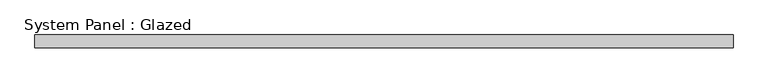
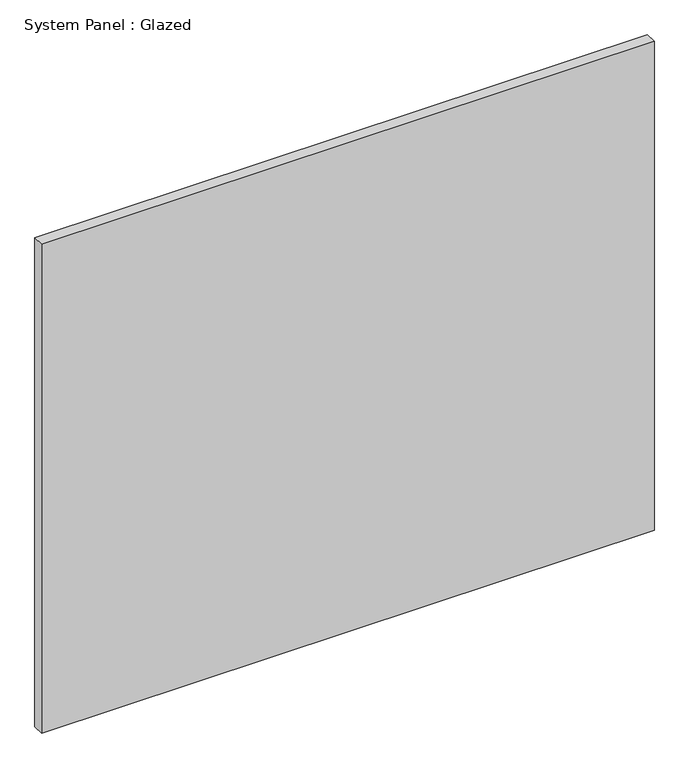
"""IFC4 building model written with IfcOpenShell, lengths in millimetres: plate geometry, System Panel : Glazed."""

from ifc_helpers import new_model, si_unit, origin, origin_with_axes, place, context, project, spatial, polyline, outline, extrude, source, transform, mapped, element, save


def system_panel_glazed_0b62f551(model_context):
    return source(origin(), model_context, "Body", "SweptSolid", [
        extrude(outline(polyline([(667.4999999, 24.5), (-667.4999999, 24.5), (-667.4999999, 49.5), (667.4999999, 49.5), (667.4999999, 24.5)])), origin_with_axes(), (0.0, 0.0, 1.0), 1125.0),
    ])


if __name__ == "__main__":
    model = new_model("IFC4")
    model_context = context("Model", 3, world=origin())
    ifc_project = project(units=[si_unit("LENGTHUNIT", "METRE", prefix="MILLI")], contexts=[model_context])
    site = spatial("IfcSite", under=ifc_project)
    building = spatial("IfcBuilding", under=site)
    placement = place(None, origin())
    system_panel_glazed_shape = system_panel_glazed_0b62f551(model_context)
    element("IfcPlate", 1, ObjectType="System Panel : Glazed", at=placement, inside=building, context=model_context, shape_type="MappedRepresentation", body=[
        mapped(system_panel_glazed_shape, transform((0.0, 0.0, 0.0), x_axis=(1.0, 0.0, 0.0), y_axis=(0.0, 1.0, 0.0), z_axis=(0.0, 0.0, 1.0))),
    ])
    save(model, "model.ifc")
